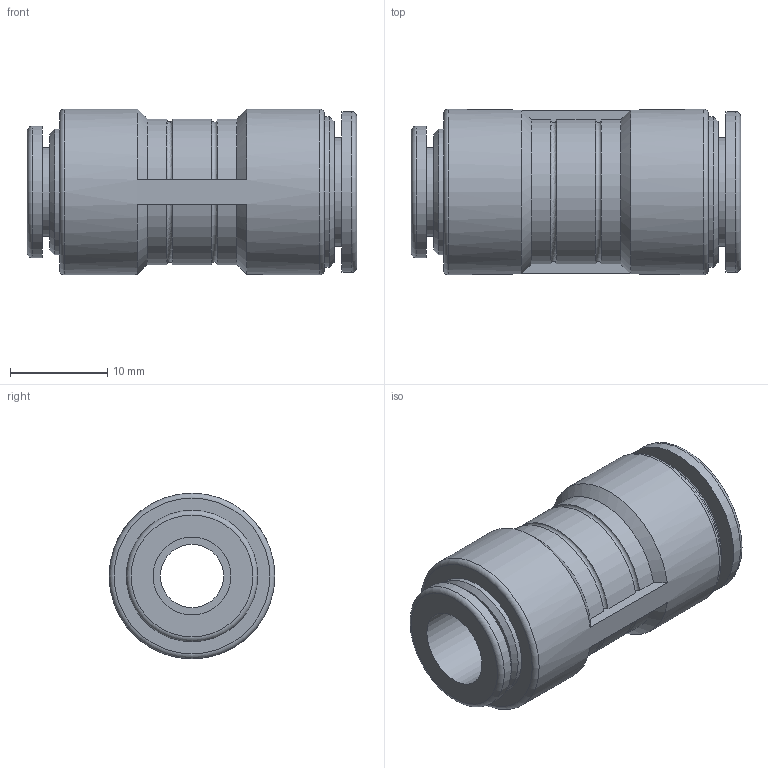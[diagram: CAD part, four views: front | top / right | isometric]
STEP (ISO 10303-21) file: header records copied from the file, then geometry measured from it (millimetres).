
FILE_DESCRIPTION((''),'2;1');
FILE_NAME('E:\2012年度板ﾃﾞｰﾀ\CHIYODA 3D-CAD DATA (Inventor 11)\TOUCH CONNECTOR FIVE (Inventor 11)\[15] DIFFERENT UNION\[03] FR8-10U FR8-10UW.stp','2012-03-21T16:16:32',('kazuhiro.t'),(''),'Autodesk Inventor 11','Autodesk Inventor 11','');
FILE_SCHEMA(('AUTOMOTIVE_DESIGN { 1 0 10303 214 1 1 1 1 }'));
Length unit declared in the file: millimetre
Products named in the file (1): [03] FR8-10U FR8-10UW
Bounding box: 33.8 x 17 x 17 mm (x, y, z)
Volume: 4591.6 mm3; surface area: 3410.9 mm2
Topology: 1 solids, 1 shells, 46 faces, 98 edges, 64 vertices
Faces by surface type: cylinder 13, plane 11, bspline 10, torus 6, cone 6
Full cylindrical faces by diameter (mm): 9.1 x1, 11.2 x1, 12.9 x1, 13.5 x1, 15.5 x1, 16.5 x1, 17 x1
Entity records: 1455 total; most frequent: CARTESIAN_POINT 559, DIRECTION 178, ORIENTED_EDGE 152, AXIS2_PLACEMENT_3D 81, EDGE_CURVE 76, EDGE_LOOP 76, VERTEX_POINT 60, FACE_OUTER_BOUND 46
